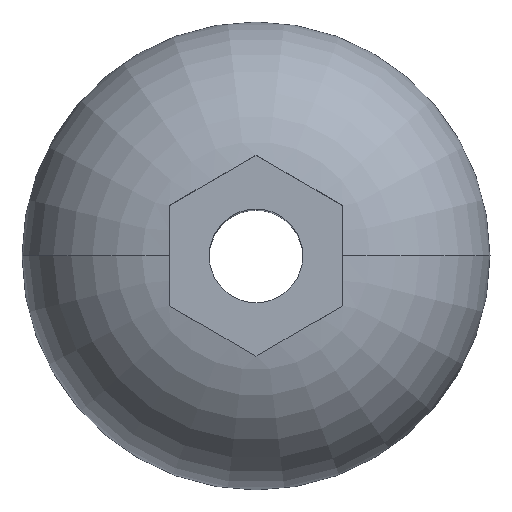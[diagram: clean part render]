
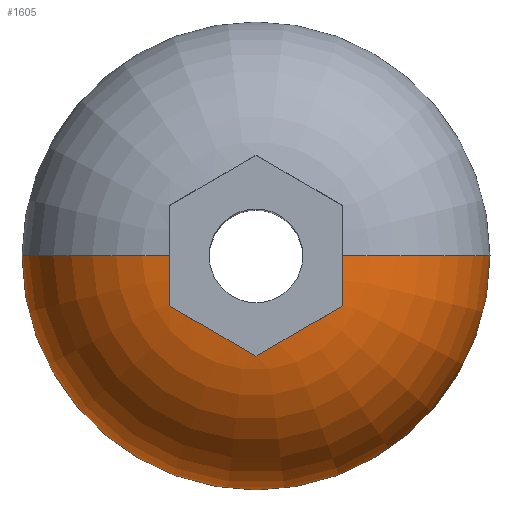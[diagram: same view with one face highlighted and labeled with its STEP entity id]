
A CAD part, top view. The second image highlights one B-rep face of the part: STEP entity #1605.
In plain terms, the highlighted toroidal (fillet/blend) face has major radius 0.501 mm and minor radius 1.25 mm.
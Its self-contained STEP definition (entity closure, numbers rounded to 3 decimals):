
#13 = CARTESIAN_POINT ( 'NONE',  ( -0.65, -0.313, 1.281 ) ) ;
#21 = AXIS2_PLACEMENT_3D ( 'NONE', #327, #52, #587 ) ;
#52 = DIRECTION ( 'NONE',  ( 0., -1., 0. ) ) ;
#61 = DIRECTION ( 'NONE',  ( 0., 1., 0. ) ) ;
#64 = VERTEX_POINT ( 'NONE', #963 ) ;
#79 = CARTESIAN_POINT ( 'NONE',  ( 0., 0., 0.05 ) ) ;
#122 = EDGE_CURVE ( 'NONE', #958, #355, #319, .T. ) ;
#127 = CARTESIAN_POINT ( 'NONE',  ( -0.65, -0.375, 1.275 ) ) ;
#134 = FACE_OUTER_BOUND ( 'NONE', #1729, .T. ) ;
#206 = DIRECTION ( 'NONE',  ( -1., 0., 0. ) ) ;
#230 = DIRECTION ( 'NONE',  ( 1., 0., 0. ) ) ;
#280 = CARTESIAN_POINT ( 'NONE',  ( 0., 0., 0. ) ) ;
#317 = CARTESIAN_POINT ( 'NONE',  ( 0.542, -0.438, 1.288 ) ) ;
#319 = B_SPLINE_CURVE_WITH_KNOTS ( 'NONE', 3,
 ( #557, #317, #450, #586, #1544 ),
 .UNSPECIFIED., .F., .F.,
 ( 4, 1, 4 ),
 ( 0., 0., 0.001 ),
 .UNSPECIFIED. ) ;
#327 = CARTESIAN_POINT ( 'NONE',  ( 0.501, 0., 0.05 ) ) ;
#337 = EDGE_CURVE ( 'NONE', #355, #984, #858, .T. ) ;
#355 = VERTEX_POINT ( 'NONE', #943 ) ;
#367 = DIRECTION ( 'NONE',  ( 0., 0., 1. ) ) ;
#385 = CARTESIAN_POINT ( 'NONE',  ( 0.65, -0.313, 1.281 ) ) ;
#389 = CARTESIAN_POINT ( 'NONE',  ( 0.65, -0.251, 1.285 ) ) ;
#400 = CIRCLE ( 'NONE', #21, 1.25 ) ;
#413 = AXIS2_PLACEMENT_3D ( 'NONE', #280, #1349, #663 ) ;
#450 = CARTESIAN_POINT ( 'NONE',  ( 0.325, -0.563, 1.295 ) ) ;
#453 = ORIENTED_EDGE ( 'NONE', *, *, #1047, .T. ) ;
#496 = ORIENTED_EDGE ( 'NONE', *, *, #1202, .T. ) ;
#524 = CARTESIAN_POINT ( 'NONE',  ( -0.65, -0.125, 1.29 ) ) ;
#557 = CARTESIAN_POINT ( 'NONE',  ( 0.65, -0.375, 1.275 ) ) ;
#573 = ORIENTED_EDGE ( 'NONE', *, *, #337, .T. ) ;
#578 = VERTEX_POINT ( 'NONE', #1495 ) ;
#586 = CARTESIAN_POINT ( 'NONE',  ( 0.108, -0.688, 1.288 ) ) ;
#587 = DIRECTION ( 'NONE',  ( 0., 0., -1. ) ) ;
#605 = B_SPLINE_CURVE_WITH_KNOTS ( 'NONE', 3,
 ( #805, #13, #668, #524, #678, #1491 ),
 .UNSPECIFIED., .F., .F.,
 ( 4, 2, 4 ),
 ( 0.009, 0.009, 0.009 ),
 .UNSPECIFIED. ) ;
#627 = CIRCLE ( 'NONE', #413, 1.75 ) ;
#663 = DIRECTION ( 'NONE',  ( 1., 0., 0. ) ) ;
#664 = CARTESIAN_POINT ( 'NONE',  ( -0.65, -0.375, 1.275 ) ) ;
#668 = CARTESIAN_POINT ( 'NONE',  ( -0.65, -0.251, 1.285 ) ) ;
#678 = CARTESIAN_POINT ( 'NONE',  ( -0.65, -0.063, 1.291 ) ) ;
#700 = ORIENTED_EDGE ( 'NONE', *, *, #122, .T. ) ;
#707 = ORIENTED_EDGE ( 'NONE', *, *, #1197, .T. ) ;
#715 = CARTESIAN_POINT ( 'NONE',  ( -1.75, 0., 0. ) ) ;
#729 = VERTEX_POINT ( 'NONE', #715 ) ;
#733 = AXIS2_PLACEMENT_3D ( 'NONE', #79, #367, #230 ) ;
#789 = CARTESIAN_POINT ( 'NONE',  ( 0.65, 0., 1.291 ) ) ;
#805 = CARTESIAN_POINT ( 'NONE',  ( -0.65, -0.375, 1.275 ) ) ;
#858 = B_SPLINE_CURVE_WITH_KNOTS ( 'NONE', 3,
 ( #1614, #921, #1461, #1200, #127 ),
 .UNSPECIFIED., .F., .F.,
 ( 4, 1, 4 ),
 ( 0., 0., 0.001 ),
 .UNSPECIFIED. ) ;
#900 = EDGE_CURVE ( 'NONE', #578, #958, #1531, .T. ) ;
#906 = CARTESIAN_POINT ( 'NONE',  ( 0.65, -0.126, 1.29 ) ) ;
#921 = CARTESIAN_POINT ( 'NONE',  ( -0.108, -0.688, 1.288 ) ) ;
#943 = CARTESIAN_POINT ( 'NONE',  ( 0., -0.751, 1.275 ) ) ;
#958 = VERTEX_POINT ( 'NONE', #1049 ) ;
#963 = CARTESIAN_POINT ( 'NONE',  ( -0.65, 0., 1.291 ) ) ;
#984 = VERTEX_POINT ( 'NONE', #664 ) ;
#1047 = EDGE_CURVE ( 'NONE', #1417, #578, #400, .T. ) ;
#1049 = CARTESIAN_POINT ( 'NONE',  ( 0.65, -0.375, 1.275 ) ) ;
#1058 = AXIS2_PLACEMENT_3D ( 'NONE', #1123, #61, #206 ) ;
#1123 = CARTESIAN_POINT ( 'NONE',  ( -0.501, 0., 0.05 ) ) ;
#1126 = ORIENTED_EDGE ( 'NONE', *, *, #1433, .F. ) ;
#1144 = CARTESIAN_POINT ( 'NONE',  ( 1.75, 0., 0. ) ) ;
#1153 = ORIENTED_EDGE ( 'NONE', *, *, #900, .T. ) ;
#1197 = EDGE_CURVE ( 'NONE', #984, #64, #605, .T. ) ;
#1200 = CARTESIAN_POINT ( 'NONE',  ( -0.542, -0.438, 1.288 ) ) ;
#1202 = EDGE_CURVE ( 'NONE', #729, #1417, #627, .T. ) ;
#1320 = CARTESIAN_POINT ( 'NONE',  ( 0.65, -0.063, 1.291 ) ) ;
#1336 = CARTESIAN_POINT ( 'NONE',  ( 0.65, -0.375, 1.275 ) ) ;
#1349 = DIRECTION ( 'NONE',  ( 0., 0., 1. ) ) ;
#1417 = VERTEX_POINT ( 'NONE', #1144 ) ;
#1433 = EDGE_CURVE ( 'NONE', #729, #64, #1618, .T. ) ;
#1461 = CARTESIAN_POINT ( 'NONE',  ( -0.325, -0.563, 1.295 ) ) ;
#1491 = CARTESIAN_POINT ( 'NONE',  ( -0.65, 0., 1.291 ) ) ;
#1495 = CARTESIAN_POINT ( 'NONE',  ( 0.65, 0., 1.291 ) ) ;
#1531 = B_SPLINE_CURVE_WITH_KNOTS ( 'NONE', 3,
 ( #789, #1320, #906, #389, #385, #1336 ),
 .UNSPECIFIED., .F., .F.,
 ( 4, 2, 4 ),
 ( 0., 0., 0. ),
 .UNSPECIFIED. ) ;
#1544 = CARTESIAN_POINT ( 'NONE',  ( 0., -0.751, 1.275 ) ) ;
#1605 = ADVANCED_FACE ( 'NONE', ( #134 ), #1663, .T. ) ;
#1614 = CARTESIAN_POINT ( 'NONE',  ( 0., -0.751, 1.275 ) ) ;
#1618 = CIRCLE ( 'NONE', #1058, 1.25 ) ;
#1663 = TOROIDAL_SURFACE ( 'NONE', #733, 0.501, 1.25 ) ;
#1729 = EDGE_LOOP ( 'NONE', ( #1126, #496, #453, #1153, #700, #573, #707 ) ) ;
